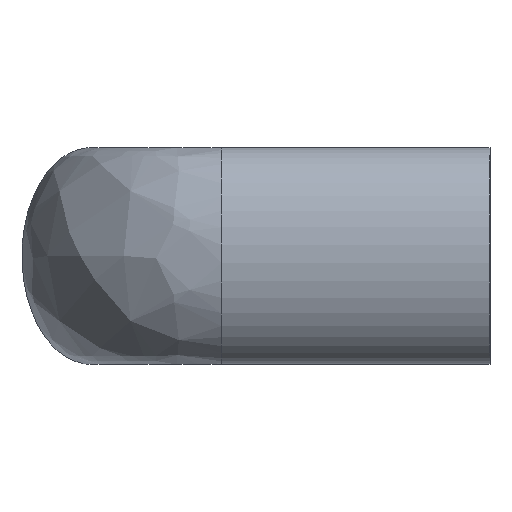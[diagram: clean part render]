
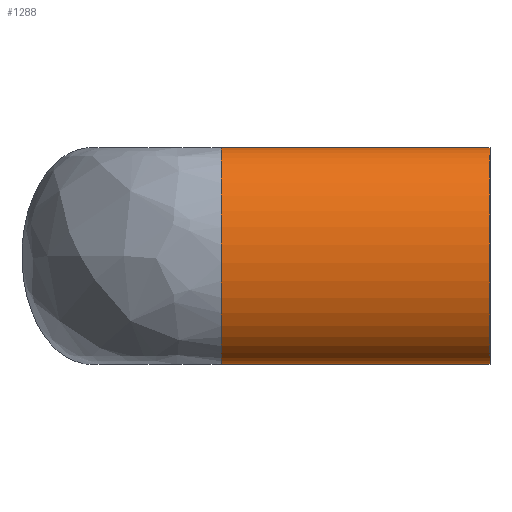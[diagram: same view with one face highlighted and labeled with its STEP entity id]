
A CAD part, left-side view. The second image highlights one B-rep face of the part: STEP entity #1288.
In plain terms, the highlighted free-form (B-spline) face has degree [3, 1] with [4, 2] control points.
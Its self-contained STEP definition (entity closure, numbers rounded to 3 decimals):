
#2 = LINE ( 'NONE', #326, #572 ) ;
#3 = LINE ( 'NONE', #332, #574 ) ;
#30 = ORIENTED_EDGE ( 'NONE', *, *, #1028, .T. ) ;
#31 = ORIENTED_EDGE ( 'NONE', *, *, #1032, .T. ) ;
#32 = ORIENTED_EDGE ( 'NONE', *, *, #1029, .F. ) ;
#40 = ORIENTED_EDGE ( 'NONE', *, *, #1034, .F. ) ;
#137 = VERTEX_POINT ( 'NONE', #311 ) ;
#138 = VERTEX_POINT ( 'NONE', #309 ) ;
#142 = VERTEX_POINT ( 'NONE', #412 ) ;
#143 = VERTEX_POINT ( 'NONE', #411 ) ;
#232 = EDGE_LOOP ( 'NONE', ( #40, #30, #31, #32 ) ) ;
#309 = CARTESIAN_POINT ( 'NONE',  ( -80., 31., -12.5 ) ) ;
#311 = CARTESIAN_POINT ( 'NONE',  ( -80., 31., 12.5 ) ) ;
#325 = DIRECTION ( 'NONE',  ( 0., -1., 0. ) ) ;
#326 = CARTESIAN_POINT ( 'NONE',  ( -80., 31., 12.5 ) ) ;
#331 = DIRECTION ( 'NONE',  ( 0., -1., 0. ) ) ;
#332 = CARTESIAN_POINT ( 'NONE',  ( -80., 31., -12.5 ) ) ;
#347 = CARTESIAN_POINT ( 'NONE',  ( -80., 0., -12.5 ) ) ;
#348 = CARTESIAN_POINT ( 'NONE',  ( -96., 0., -12.5 ) ) ;
#349 = CARTESIAN_POINT ( 'NONE',  ( -96., 0., 12.5 ) ) ;
#350 = CARTESIAN_POINT ( 'NONE',  ( -80., 0., 12.5 ) ) ;
#352 = CARTESIAN_POINT ( 'NONE',  ( -80., 31., -12.5 ) ) ;
#353 = CARTESIAN_POINT ( 'NONE',  ( -96., 31., -12.5 ) ) ;
#354 = CARTESIAN_POINT ( 'NONE',  ( -96., 31., 12.5 ) ) ;
#355 = CARTESIAN_POINT ( 'NONE',  ( -80., 31., 12.5 ) ) ;
#411 = CARTESIAN_POINT ( 'NONE',  ( -80., 0., -12.5 ) ) ;
#412 = CARTESIAN_POINT ( 'NONE',  ( -80., 0., 12.5 ) ) ;
#572 = VECTOR ( 'NONE', #325, 1000. ) ;
#574 = VECTOR ( 'NONE', #331, 1000. ) ;
#801 =( BOUNDED_SURFACE ( )  B_SPLINE_SURFACE ( 3, 1, ( 
 ( #940, #941 ),
 ( #942, #943 ),
 ( #944, #945 ),
 ( #946, #947 ) ),
 .UNSPECIFIED., .F., .F., .F. ) 
 B_SPLINE_SURFACE_WITH_KNOTS ( ( 4, 4 ),
 ( 2, 2 ),
 ( 0., 1. ),
 ( 0., 1. ),
 .UNSPECIFIED. ) 
 GEOMETRIC_REPRESENTATION_ITEM ( )  RATIONAL_B_SPLINE_SURFACE ( (
 ( 1., 1.),
 ( 0.333, 0.333),
 ( 0.333, 0.333),
 ( 1., 1.) ) ) 
 REPRESENTATION_ITEM ( '' )  SURFACE ( )  );
#859 = FACE_OUTER_BOUND ( 'NONE', #232, .T. ) ;
#940 = CARTESIAN_POINT ( 'NONE',  ( -80., 31., 12.5 ) ) ;
#941 = CARTESIAN_POINT ( 'NONE',  ( -80., 0., 12.5 ) ) ;
#942 = CARTESIAN_POINT ( 'NONE',  ( -96., 31., 12.5 ) ) ;
#943 = CARTESIAN_POINT ( 'NONE',  ( -96., 0., 12.5 ) ) ;
#944 = CARTESIAN_POINT ( 'NONE',  ( -96., 31., -12.5 ) ) ;
#945 = CARTESIAN_POINT ( 'NONE',  ( -96., 0., -12.5 ) ) ;
#946 = CARTESIAN_POINT ( 'NONE',  ( -80., 31., -12.5 ) ) ;
#947 = CARTESIAN_POINT ( 'NONE',  ( -80., 0., -12.5 ) ) ;
#1028 = EDGE_CURVE ( 'NONE', #137, #138, #1160, .T. ) ;
#1029 = EDGE_CURVE ( 'NONE', #142, #143, #1163, .T. ) ;
#1032 = EDGE_CURVE ( 'NONE', #138, #143, #3, .T. ) ;
#1034 = EDGE_CURVE ( 'NONE', #137, #142, #2, .T. ) ;
#1160 =( BOUNDED_CURVE ( )  B_SPLINE_CURVE ( 3, ( #355, #354, #353, #352 ),
 .UNSPECIFIED., .F., .T. ) 
 B_SPLINE_CURVE_WITH_KNOTS ( ( 4, 4 ),
 ( 3.142, 6.283 ),
 .UNSPECIFIED. ) 
 CURVE ( )  GEOMETRIC_REPRESENTATION_ITEM ( )  RATIONAL_B_SPLINE_CURVE ( ( 1., 0.333, 0.333, 1. ) ) 
 REPRESENTATION_ITEM ( '' )  );
#1163 =( BOUNDED_CURVE ( )  B_SPLINE_CURVE ( 3, ( #350, #349, #348, #347 ),
 .UNSPECIFIED., .F., .T. ) 
 B_SPLINE_CURVE_WITH_KNOTS ( ( 4, 4 ),
 ( 3.142, 6.283 ),
 .UNSPECIFIED. ) 
 CURVE ( )  GEOMETRIC_REPRESENTATION_ITEM ( )  RATIONAL_B_SPLINE_CURVE ( ( 1., 0.333, 0.333, 1. ) ) 
 REPRESENTATION_ITEM ( '' )  );
#1288 = ADVANCED_FACE ( 'NONE', ( #859 ), #801, .T. ) ;
